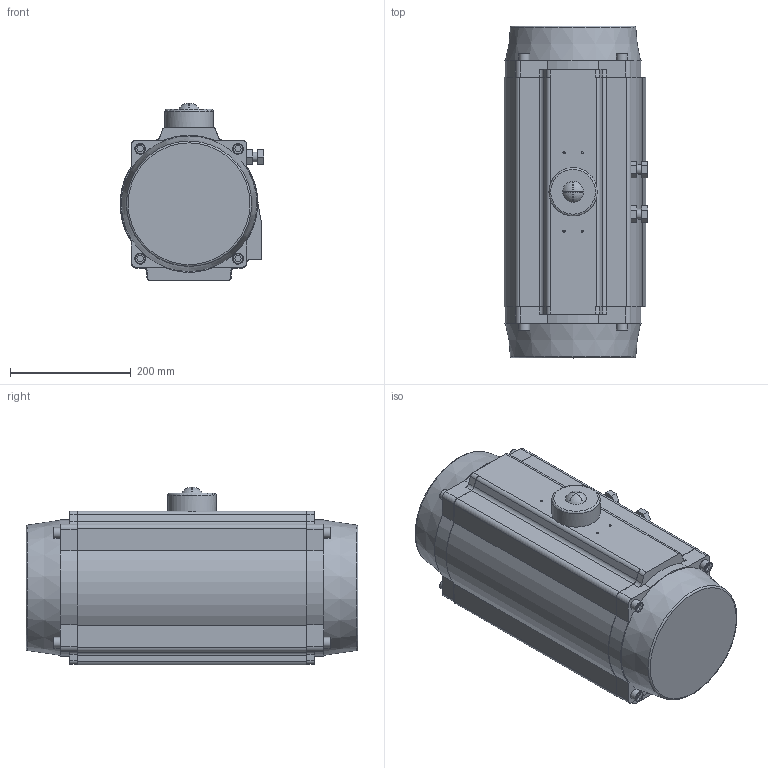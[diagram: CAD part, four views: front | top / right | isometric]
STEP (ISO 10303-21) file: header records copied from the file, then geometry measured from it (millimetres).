
FILE_DESCRIPTION(('Open CASCADE Model'),'2;1');
FILE_NAME('Open CASCADE Shape Model','2023-01-26T10:23:16',('Author'),( 'Open CASCADE'),'Open CASCADE STEP processor 7.3','Open CASCADE 7.3' ,'Unknown');
FILE_SCHEMA(('AUTOMOTIVE_DESIGN { 1 0 10303 214 1 1 1 1 }'));
Length unit declared in the file: millimetre
Products named in the file (1): Open CASCADE STEP translator 7.3 1
Bounding box: 238.11 x 550 x 294.48 mm (x, y, z)
Volume: 25881831.9 mm3; surface area: 588375.2 mm2
Topology: 1 solids, 9 shells, 304 faces, 720 edges, 475 vertices
Faces by surface type: plane 208, cylinder 82, torus 11, cone 2, sphere 1
Full cylindrical faces by diameter (mm): 3.5 x8, 8.5 x2, 13.5 x8, 14 x4, 16 x2, 18 x8, 80 x1, 88 x1
Entity records: 18703 total; most frequent: CARTESIAN_POINT 3978, DIRECTION 2803, LINE 1716, VECTOR 1716, ORIENTED_EDGE 1440, PCURVE 1440, DEFINITIONAL_REPRESENTATION 1440, EDGE_CURVE 720
